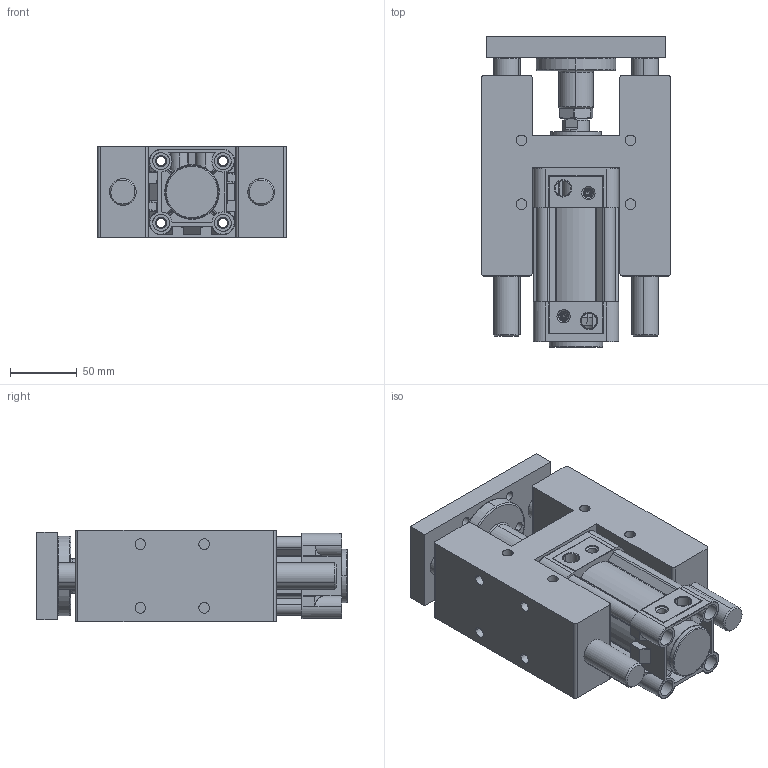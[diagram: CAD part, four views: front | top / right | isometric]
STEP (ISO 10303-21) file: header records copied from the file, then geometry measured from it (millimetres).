
FILE_DESCRIPTION (( 'STEP AP203' ), '1' );
FILE_NAME ('KDNT50X25H-YATAK.STEP', '2016-05-18T09:49:04', ( 'user' ), ( '' ), 'SwSTEP 2.0', 'SolidWorks 2013', '' );
FILE_SCHEMA (( 'CONFIG_CONTROL_DESIGN' ));
Length unit declared in the file: millimetre
Products named in the file (11): ARKA KAPAK 50; KDNT 50X25 BORU; ORTA PÝSTON 50; 烰 KAPAK  50; Piston Mili 50x25; DNC-H-YATAK 50; SOMUN 50; DNC-H-YATAK M尳 50X25; KDNT50X25H-YATAK; DNC-H-YATAK TABLA 50; DNC-H-YATAK MÝL YATAÐI 50
Assembly tree (11 placements, depth 2):
  KDNT50X25H-YATAK
    DNC-H-YATAK 50
    DNC-H-YATAK M尳 50X25  x2
    DNC-H-YATAK TABLA 50
    DNC-H-YATAK MÝL YATAÐI 50
    ARKA KAPAK 50
    KDNT 50X25 BORU
    ORTA PÝSTON 50
    烰 KAPAK  50
    Piston Mili 50x25
    SOMUN 50
Bounding box: 142 x 233.4 x 68.5 mm (x, y, z)
Volume: 1326805.1 mm3; surface area: 330123.4 mm2
Topology: 18 solids, 18 shells, 973 faces, 2485 edges, 1637 vertices
Faces by surface type: cylinder 496, plane 351, cone 80, bspline 34, torus 12
Entity records: 39109 total; most frequent: CARTESIAN_POINT 15107, ORIENTED_EDGE 4934, DIRECTION 4438, EDGE_CURVE 2467, AXIS2_PLACEMENT_3D 1696, VERTEX_POINT 1629, EDGE_LOOP 1152, VECTOR 1046
